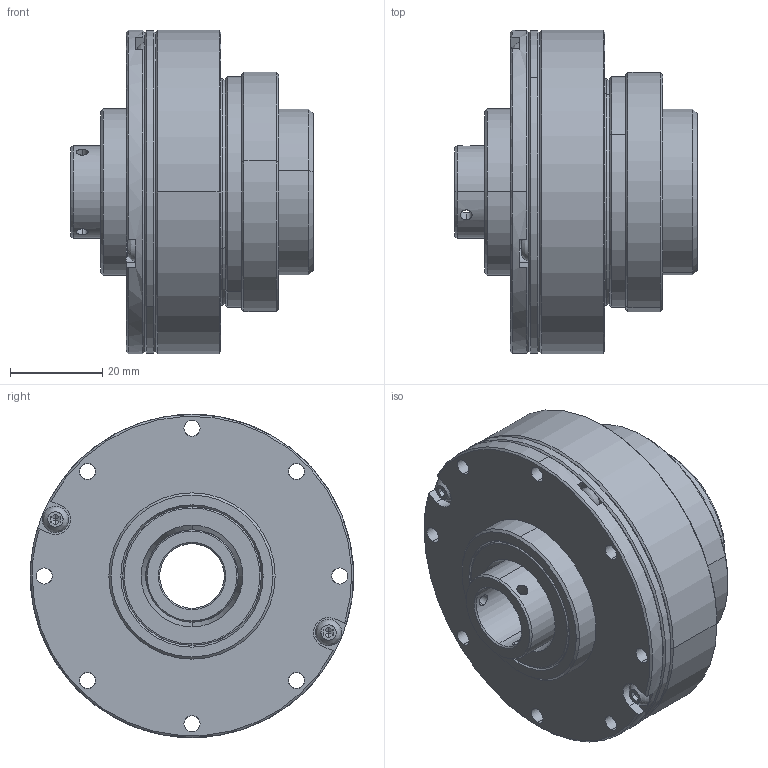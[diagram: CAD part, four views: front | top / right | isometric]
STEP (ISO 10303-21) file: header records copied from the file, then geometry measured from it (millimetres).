
FILE_DESCRIPTION (( 'STEP AP203' ), '1' );
FILE_NAME ('LHSG-14-XXX-CL-III.step', '2025-01-07T06:47:18', ( '' ), ( '' ), 'SwSTEP 2.0', 'SolidWorks 2023', '' );
FILE_SCHEMA (( 'CONFIG_CONTROL_DESIGN' ));
Length unit declared in the file: metre
Products named in the file (1): LHSG-14-XXX-CL-III
Bounding box: 52.5 x 70 x 70 mm (x, y, z)
Volume: 86168.7 mm3; surface area: 78349.3 mm2
Topology: 47 solids, 47 shells, 1182 faces, 3289 edges, 2053 vertices
Faces by surface type: cylinder 406, bspline 384, plane 262, cone 130
Entity records: 46564 total; most frequent: CARTESIAN_POINT 18345, ORIENTED_EDGE 6314, DIRECTION 5466, EDGE_CURVE 3157, AXIS2_PLACEMENT_3D 2334, VERTEX_POINT 2053, CIRCLE 1535, EDGE_LOOP 1416
